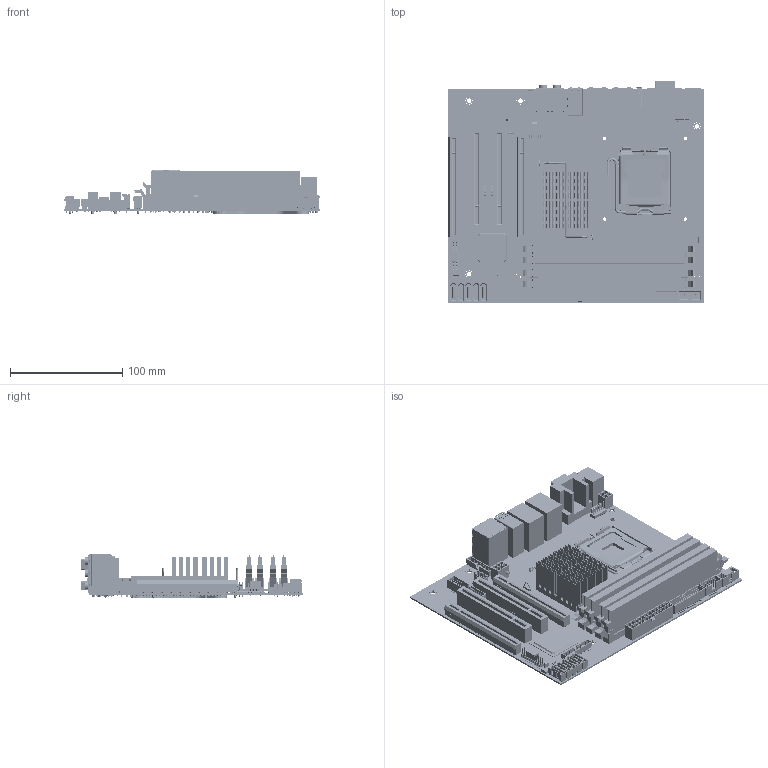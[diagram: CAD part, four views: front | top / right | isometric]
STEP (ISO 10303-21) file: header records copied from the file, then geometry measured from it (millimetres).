
FILE_DESCRIPTION((''),'2;1');
FILE_NAME('BX2-MB_ASM','2009-01-07T',('97031008'),(''),'PRO/ENGINEER BY PARAMETRIC TECHNOLOGY CORPORATION, 2008250','PRO/ENGINEER BY PARAMETRIC TECHNOLOGY CORPORATION, 2008250','');
FILE_SCHEMA(('CONFIG_CONTROL_DESIGN'));
Length unit declared in the file: millimetre
Products named in the file (36): BX2-MB; PCI-CONNECTOR-5V-32BIT; FOXCONN_2EG01613-5L0; PCI-EX16_SHORT-CARD_ASSY_ASM; WIESON-PS2; FOXCONN-DM1019; FOX_E-SATA_LD7807V-S61R; RJ45-USB_P35-PB4-RDW9_SPEEDTECH; FOX_4USB_UB1112X_Q1_4F; S-TECH_6_AUDIO_JACK_P24-L1A-000; D92964-001; DDR-DIMM-1-2INCH; D92964-001_ASM_ASM; 1674300_ASM; BX2-775-PLATE_; MOLEX-DFHD26MR279-26PIN; MOLEX-DFHD30MS689-30PIN; WIESON-2120-SMT-26P; MOLEX-HSC-SD-67800-008; S07-FOXCONN-POWER-CONNECTOR; TYCO-104450-3; MOLEX-SD-45718; 4-PIN-CONNECTOR-1_S18; WIESON-2120-SMT-10P; C74770-001-6012B0031801B; WWP-DFHD10MR001-10P; WIESON-G2120HT0038-012_24P; PLASTRON_SPHS-10S-X-X-V02_9PIN; INTEL-ICH10-CHIPSET; INTEL-EAGLELAKE_BX2; AVC-CLIP-50209044; BX4-MCH-HEAT-SINK-081217; TSM-110-01-L-DV-004-P-TR; MOLEX-22-23-2061; BX3_MCH_HEAT-SINK_081229; BX2-MB_ASM
Assembly tree (47 placements, depth 3):
  BX2-MB_ASM
    BX2-MB
    PCI-CONNECTOR-5V-32BIT  x2
    PCI-EX16_SHORT-CARD_ASSY_ASM  x2
      FOXCONN_2EG01613-5L0
    WIESON-PS2
    FOXCONN-DM1019
    FOX_E-SATA_LD7807V-S61R
    RJ45-USB_P35-PB4-RDW9_SPEEDTECH  x2
    FOX_4USB_UB1112X_Q1_4F
    S-TECH_6_AUDIO_JACK_P24-L1A-000
    D92964-001_ASM_ASM  x4
      D92964-001
      DDR-DIMM-1-2INCH
    1674300_ASM
    BX2-775-PLATE_
    MOLEX-DFHD26MR279-26PIN
    MOLEX-DFHD30MS689-30PIN
    WIESON-2120-SMT-26P
    MOLEX-HSC-SD-67800-008  x5
    S07-FOXCONN-POWER-CONNECTOR
    TYCO-104450-3
    MOLEX-SD-45718
    4-PIN-CONNECTOR-1_S18
    WIESON-2120-SMT-10P
    C74770-001-6012B0031801B  x2
    WWP-DFHD10MR001-10P
    WIESON-G2120HT0038-012_24P
    PLASTRON_SPHS-10S-X-X-V02_9PIN
    INTEL-ICH10-CHIPSET
    INTEL-EAGLELAKE_BX2
    AVC-CLIP-50209044  x2
    BX4-MCH-HEAT-SINK-081217
    TSM-110-01-L-DV-004-P-TR
    MOLEX-22-23-2061
    BX3_MCH_HEAT-SINK_081229
Bounding box: 228.68 x 197.62 x 39.3 mm (x, y, z)
Volume: 283231.4 mm3; surface area: 383091.6 mm2
Topology: 255 solids, 278 shells, 18023 faces, 46730 edges, 29692 vertices
Faces by surface type: plane 13301, cylinder 3813, sphere 443, torus 218, bspline 140, cone 100, extrusion 8
Entity records: 475173 total; most frequent: CARTESIAN_POINT 91294, ORIENTED_EDGE 80218, DIRECTION 77407, EDGE_CURVE 40193, VECTOR 31817, LINE 31809, VERTEX_POINT 25683, AXIS2_PLACEMENT_3D 22795
